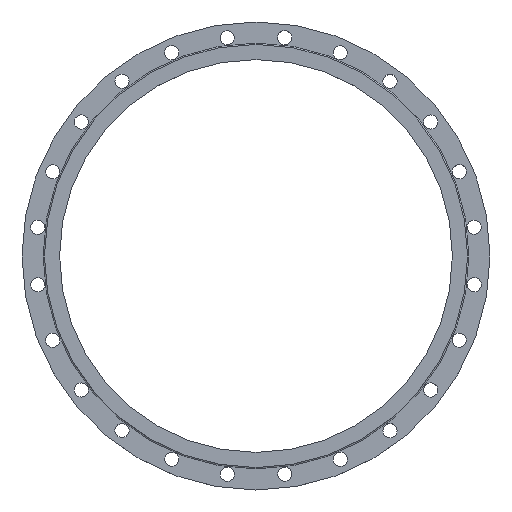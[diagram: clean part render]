
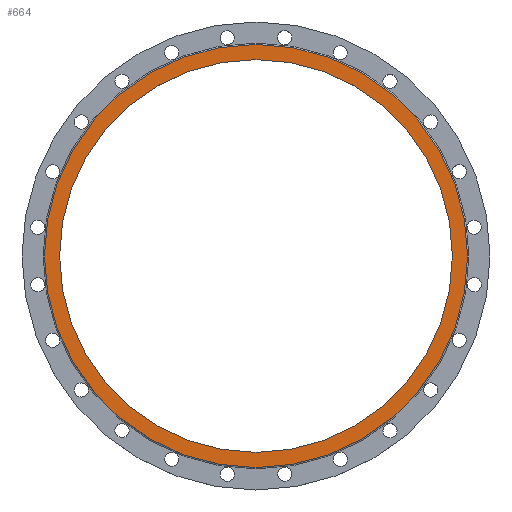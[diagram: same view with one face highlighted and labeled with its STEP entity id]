
A CAD part, top view. The second image highlights one B-rep face of the part: STEP entity #664.
In plain terms, the highlighted planar face has unit normal (0, 0, 1).
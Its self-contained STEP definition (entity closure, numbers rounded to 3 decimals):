
#118=FACE_BOUND('',#231,.T.);
#145=PLANE('',#774);
#175=FACE_OUTER_BOUND('',#230,.T.);
#230=EDGE_LOOP('',(#604,#605));
#231=EDGE_LOOP('',(#606,#607));
#260=CIRCLE('',#689,495.);
#261=CIRCLE('',#690,495.);
#313=CIRCLE('',#768,459.5);
#314=CIRCLE('',#769,459.5);
#320=VERTEX_POINT('',#989);
#321=VERTEX_POINT('',#991);
#372=VERTEX_POINT('',#1145);
#373=VERTEX_POINT('',#1146);
#379=EDGE_CURVE('',#321,#320,#260,.T.);
#380=EDGE_CURVE('',#320,#321,#261,.T.);
#456=EDGE_CURVE('',#372,#373,#313,.T.);
#457=EDGE_CURVE('',#373,#372,#314,.T.);
#604=ORIENTED_EDGE('',*,*,#379,.T.);
#605=ORIENTED_EDGE('',*,*,#380,.T.);
#606=ORIENTED_EDGE('',*,*,#456,.T.);
#607=ORIENTED_EDGE('',*,*,#457,.T.);
#664=ADVANCED_FACE('',(#175,#118),#145,.T.);
#689=AXIS2_PLACEMENT_3D('',#992,#784,#785);
#690=AXIS2_PLACEMENT_3D('',#993,#786,#787);
#768=AXIS2_PLACEMENT_3D('',#1147,#966,#967);
#769=AXIS2_PLACEMENT_3D('',#1148,#968,#969);
#774=AXIS2_PLACEMENT_3D('',#1158,#980,#981);
#784=DIRECTION('center_axis',(0.,0.,1.));
#785=DIRECTION('ref_axis',(-1.,0.,0.));
#786=DIRECTION('center_axis',(0.,0.,1.));
#787=DIRECTION('ref_axis',(-1.,0.,0.));
#966=DIRECTION('center_axis',(0.,0.,-1.));
#967=DIRECTION('ref_axis',(1.,0.,0.));
#968=DIRECTION('center_axis',(0.,0.,-1.));
#969=DIRECTION('ref_axis',(1.,0.,0.));
#980=DIRECTION('center_axis',(0.,0.,1.));
#981=DIRECTION('ref_axis',(1.,0.,0.));
#989=CARTESIAN_POINT('',(-495.,0.,30.));
#991=CARTESIAN_POINT('',(495.,0.,30.));
#992=CARTESIAN_POINT('Origin',(0.,0.,30.));
#993=CARTESIAN_POINT('Origin',(0.,0.,30.));
#1145=CARTESIAN_POINT('',(459.5,0.,30.));
#1146=CARTESIAN_POINT('',(-459.5,0.,30.));
#1147=CARTESIAN_POINT('Origin',(0.,0.,30.));
#1148=CARTESIAN_POINT('Origin',(0.,0.,30.));
#1158=CARTESIAN_POINT('Origin',(0.,0.,30.));
